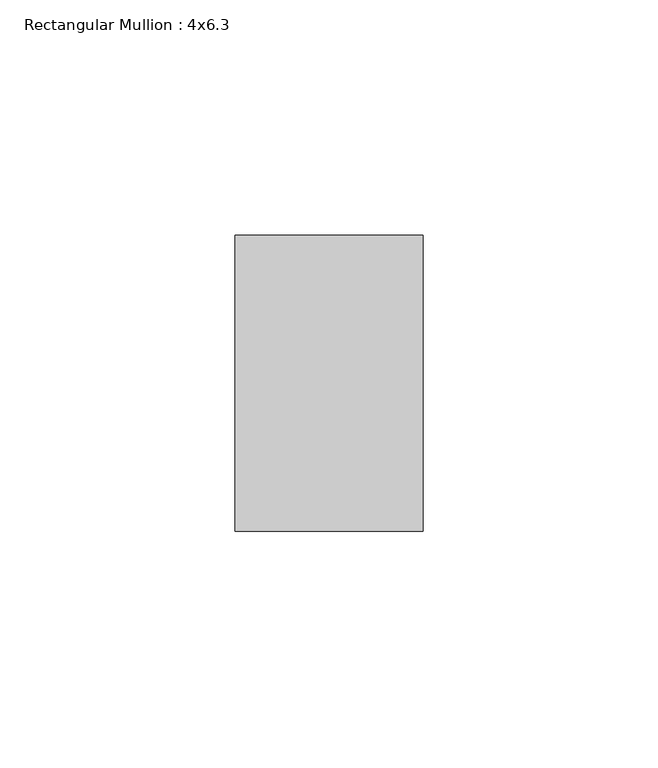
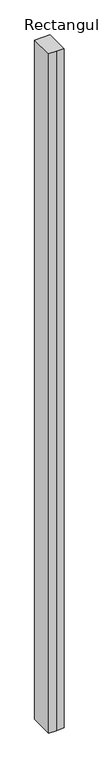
"""IFC4 building model written with IfcOpenShell, lengths in millimetres: member geometry, Rectangular Mullion : 4x6.3."""

import ifcopenshell
import ifcopenshell.guid

model = None  # the IFC model being written
_history = None  # IfcOwnerHistory: only IFC2X3 demands one
_inside = {}  # id of a spatial element -> (the spatial element, [elements in it])
_under = {}  # id of a project, library or spatial element -> (it, [spatial elements below it])
_declared = {}  # id of a project -> (the project, [libraries it declares])
_typed = {}  # id of a type object -> (the type object, [elements of that type])
_made_of = {}  # id of a material, layer set ... -> (it, [elements and type objects made of it])


def new_model(schema):
    """Start an empty IFC model of exactly this schema.

    Asked for "IFC4X3", IfcOpenShell would pick the latest addendum, in which some entities
    have other attributes; the version numbers below select the first issue.
    IFC2X3 requires an IfcOwnerHistory on every rooted entity: one is made here for all.
    """
    global model, _history
    if schema == "IFC4X3":
        model = ifcopenshell.file(schema_version=(4, 3, 0, 0))
    else:
        model = ifcopenshell.file(schema=schema)
    _inside.clear()
    _under.clear()
    _declared.clear()
    _typed.clear()
    _made_of.clear()
    _history = None
    if model.schema == "IFC2X3":
        org = make("IfcOrganization", Name="unknown")
        user = make(
            "IfcPersonAndOrganization",
            ThePerson=make("IfcPerson", FamilyName="unknown"),
            TheOrganization=org,
        )
        app = make(
            "IfcApplication",
            ApplicationDeveloper=org,
            Version="unknown",
            ApplicationFullName="unknown",
            ApplicationIdentifier="unknown",
        )
        _history = make(
            "IfcOwnerHistory",
            OwningUser=user,
            OwningApplication=app,
            ChangeAction="ADDED",
            CreationDate=0,
        )
    return model


def make(cls, **values):
    """One entity of the class cls with the attributes given. An attribute that is None is left unset."""
    return model.create_entity(
        cls, **{name: value for name, value in values.items() if value is not None}
    )


def rooted(cls, **values):
    """An entity with a GlobalId (a new one), such as an element, a storey or a relation."""
    return make(cls, GlobalId=ifcopenshell.guid.new(), OwnerHistory=_history, **values)


def si_unit(unit_type, name, prefix=None):
    """IfcSIUnit, for example si_unit("LENGTHUNIT", "METRE", prefix="MILLI")."""
    return make("IfcSIUnit", UnitType=unit_type, Prefix=prefix, Name=name)


def assignment(units):
    """IfcUnitAssignment: the units of a project."""
    return None if units is None else make("IfcUnitAssignment", Units=units)


def point(xyz):
    """IfcCartesianPoint."""
    return None if xyz is None else make("IfcCartesianPoint", Coordinates=xyz)


def direction(xyz):
    """IfcDirection."""
    return None if xyz is None else make("IfcDirection", DirectionRatios=xyz)


def frame(location, z_axis=None, x_axis=None):
    """IfcAxis2Placement3D, a coordinate frame: its origin and axes. An axis left out is left unset."""
    return make(
        "IfcAxis2Placement3D",
        Location=point(location),
        Axis=direction(z_axis),
        RefDirection=direction(x_axis),
    )


def origin():
    """The frame at (0, 0, 0) with its axes left unset."""
    return frame((0.0, 0.0, 0.0))


def place(relative_to, where):
    """IfcLocalPlacement: puts the frame where relative to a parent placement (None: the world)."""
    return make(
        "IfcLocalPlacement", PlacementRelTo=relative_to, RelativePlacement=where
    )


def context(
    kind, dimensions, precision=None, world=None, true_north=None, identifier=None
):
    """IfcGeometricRepresentationContext, for example the 3D "Model" context."""
    return make(
        "IfcGeometricRepresentationContext",
        ContextIdentifier=identifier,
        ContextType=kind,
        CoordinateSpaceDimension=dimensions,
        Precision=precision,
        WorldCoordinateSystem=world,
        TrueNorth=true_north,
    )


def project(units=None, contexts=None):
    """IfcProject with its units and contexts."""
    return rooted(
        "IfcProject",
        Name="project",
        RepresentationContexts=contexts,
        UnitsInContext=assignment(units),
    )


def spatial(cls, under=None, at=None, **own):
    """A site, building, storey or space (cls), placed at a placement, below another one or the project."""
    s = rooted(cls, ObjectPlacement=at, **own)
    if under is not None:
        _under.setdefault(under.id(), (under, []))[1].append(s)
    return s


def polyline(points):
    """IfcPolyline through the points."""
    return make("IfcPolyline", Points=[point(p) for p in points])


def outline(outer, holes=None, kind="AREA"):
    """IfcArbitraryClosedProfileDef: a profile drawn as a closed curve; with holes, ...WithVoids."""
    if holes is None:
        return make("IfcArbitraryClosedProfileDef", ProfileType=kind, OuterCurve=outer)
    return make(
        "IfcArbitraryProfileDefWithVoids",
        ProfileType=kind,
        OuterCurve=outer,
        InnerCurves=holes,
    )


def extrude(swept, where, along, depth):
    """IfcExtrudedAreaSolid: the profile swept, set in the frame where, extruded along a direction by depth."""
    return make(
        "IfcExtrudedAreaSolid",
        SweptArea=swept,
        Position=where,
        ExtrudedDirection=direction(along),
        Depth=depth,
    )


def shape(context_of_items, identifier, shape_type, items):
    """IfcShapeRepresentation: the items that make up one representation, for example the "Body"."""
    return make(
        "IfcShapeRepresentation",
        ContextOfItems=context_of_items,
        RepresentationIdentifier=identifier,
        RepresentationType=shape_type,
        Items=items,
    )


def source(mapping_origin, context_of_items, identifier, shape_type, items):
    """IfcRepresentationMap: a shape defined once, which mapped items show again and again."""
    return make(
        "IfcRepresentationMap",
        MappingOrigin=mapping_origin,
        MappedRepresentation=shape(context_of_items, identifier, shape_type, items),
    )


def transform(
    local_origin,
    x_axis=None,
    y_axis=None,
    z_axis=None,
    scale=None,
    scale2=None,
    scale3=None,
    uniform=True,
):
    """IfcCartesianTransformationOperator3D, or its non-uniform kind. x_axis, y_axis, z_axis: its Axis1, 2, 3."""
    if uniform:
        return make(
            "IfcCartesianTransformationOperator3D",
            Axis1=direction(x_axis),
            Axis2=direction(y_axis),
            LocalOrigin=point(local_origin),
            Scale=scale,
            Axis3=direction(z_axis),
        )
    return make(
        "IfcCartesianTransformationOperator3DnonUniform",
        Axis1=direction(x_axis),
        Axis2=direction(y_axis),
        LocalOrigin=point(local_origin),
        Scale=scale,
        Axis3=direction(z_axis),
        Scale2=scale2,
        Scale3=scale3,
    )


def mapped(mapping_source, mapping_target):
    """IfcMappedItem: shows the shape of a source again, moved by a transform."""
    return make(
        "IfcMappedItem", MappingSource=mapping_source, MappingTarget=mapping_target
    )


def made_of(thing, what):
    """Note that an element or type object is made of a material, layer set ...; save() writes the relation."""
    if what is not None:
        _made_of.setdefault(what.id(), (what, []))[1].append(thing)
    return thing


def element(
    cls,
    number,
    at=None,
    inside=None,
    cuts=None,
    type_object=None,
    material=None,
    context=None,
    identifier="Body",
    shape_type=None,
    held_by="IfcProductDefinitionShape",
    body=None,
    shapes=None,
    **own,
):
    """One element of the class cls, such as IfcWall. Its Tag is "e" and its number.

    at: its placement. inside: the storey or other place that contains it. cuts: it is an
    opening in that element (IfcRelVoidsElement). A single representation is given by context,
    identifier, shape_type and body (its items); several are given by shapes. held_by: the class
    of the entity that holds the representations. save() writes the other relations.
    """
    e = rooted(cls, Tag="e%d" % number, ObjectPlacement=at, **own)
    if body is not None:
        shapes = [shape(context, identifier, shape_type, body)]
    if shapes is not None:
        e.Representation = make(held_by, Representations=shapes)
    if inside is not None:
        _inside.setdefault(inside.id(), (inside, []))[1].append(e)
    if cuts is not None:
        rooted(
            "IfcRelVoidsElement", RelatingBuildingElement=cuts, RelatedOpeningElement=e
        )
    if type_object is not None:
        _typed.setdefault(type_object.id(), (type_object, []))[1].append(e)
    return made_of(e, material)


def aggregate(whole, parts):
    """IfcRelAggregates: a whole, such as a stair, and the parts it consists of."""
    return rooted("IfcRelAggregates", RelatingObject=whole, RelatedObjects=parts)


def save(model, path):
    """Write the relations noted so far, then the file.

    IfcRelAggregates (storeys below a building ...), IfcRelContainedInSpatialStructure (elements
    in a storey), IfcRelDefinesByType, IfcRelAssociatesMaterial and IfcRelDeclares: one each for
    every whole, place, type object, material and project.
    """
    for whole, parts in _under.values():
        aggregate(whole, parts)
    for where, things in _inside.values():
        rooted(
            "IfcRelContainedInSpatialStructure",
            RelatedElements=things,
            RelatingStructure=where,
        )
    for kind, things in _typed.values():
        rooted("IfcRelDefinesByType", RelatedObjects=things, RelatingType=kind)
    for what, things in _made_of.values():
        rooted("IfcRelAssociatesMaterial", RelatedObjects=things, RelatingMaterial=what)
    for by, libraries in _declared.values():
        rooted("IfcRelDeclares", RelatingContext=by, RelatedDefinitions=libraries)
    model.write(path)


def rectangular_mullion_4x6_3_6505f396(model_context):
    return source(origin(), model_context, "Body", "SweptSolid", [
        extrude(outline(polyline([(-20.0, 20.0), (-20.0, 83.0), (20.0, 83.0), (20.0, 20.0), (0.0, 20.0), (-20.0, 20.0)])), frame((0.0, 0.0, -1858.7851591), z_axis=(0.0, 0.0, 1.0), x_axis=(1.0, 0.0, 0.0)), (0.0, 0.0, 1.0), 1858.7851591),
    ])


if __name__ == "__main__":
    model = new_model("IFC4")
    model_context = context("Model", 3, world=origin())
    ifc_project = project(units=[si_unit("LENGTHUNIT", "METRE", prefix="MILLI")], contexts=[model_context])
    site = spatial("IfcSite", under=ifc_project)
    building = spatial("IfcBuilding", under=site)
    placement = place(None, origin())
    rectangular_mullion_4x6_3_shape = rectangular_mullion_4x6_3_6505f396(model_context)
    element("IfcMember", 1, ObjectType="Rectangular Mullion : 4x6.3", at=placement, inside=building, context=model_context, shape_type="MappedRepresentation", body=[
        mapped(rectangular_mullion_4x6_3_shape, transform((0.0, 0.0, 0.0), x_axis=(1.0, 0.0, 0.0), y_axis=(0.0, 1.0, 0.0), z_axis=(0.0, 0.0, 1.0))),
    ])
    save(model, "model.ifc")
